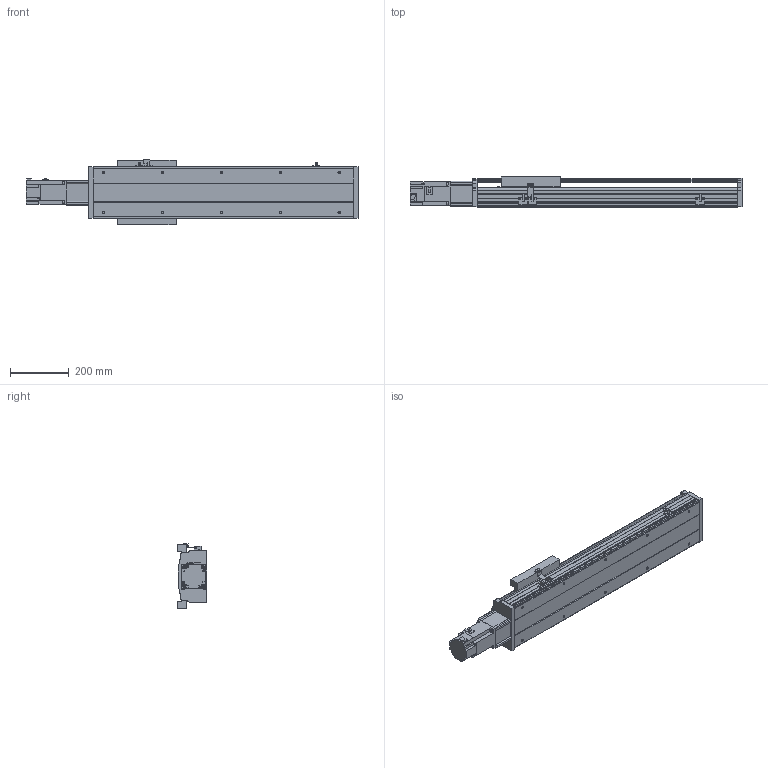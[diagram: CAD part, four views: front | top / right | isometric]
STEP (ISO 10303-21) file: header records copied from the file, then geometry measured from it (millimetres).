
FILE_DESCRIPTION( ( 'STEP AP214' ), '1' );
FILE_NAME( 'x:/temp/worker_27/temp/exporttempdir_6708_407_pI1L7/format_0/PSS200-L10-S550-BC-T75-C1-N(0).stp', '2022-06-06T02:34:05', ( 'License CC BY-ND 4.0' ), ( 'CADENAS' ), ' ', 'PARTsolutions', ' ' );
FILE_SCHEMA( ( 'AUTOMOTIVE_DESIGN { 1 0 10303 214 1 1 1 1 }' ) );
Length unit declared in the file: millimetre
Products named in the file (8): PSS200-L10-S550-BC-T75-C1-N(0); _PSS200-S550-BC-C1-N_body; _PSS200-N_Q; _PSS200-BC-C1-N_sl; _PSS200-N_sensor; _PSS200BC-N_h; _T75-p1; _PSS200-S550-BC-N_S
Assembly tree (9 placements, depth 2):
  PSS200-L10-S550-BC-T75-C1-N(0)
    _PSS200-S550-BC-C1-N_body
    _PSS200-N_Q
    _PSS200-BC-C1-N_sl
    _PSS200-N_sensor  x3
    _PSS200BC-N_h
    _T75-p1
    _PSS200-S550-BC-N_S
Bounding box: 1126.3 x 101.5 x 223.86 mm (x, y, z)
Volume: 6594333.4 mm3; surface area: 1584963.2 mm2
Topology: 9 solids, 9 shells, 573 faces, 1531 edges, 1016 vertices
Faces by surface type: plane 439, cylinder 116, cone 18
Full cylindrical faces by diameter (mm): 4 x2, 4.5 x4, 6 x11, 6.647 x14, 8 x8, 10 x6, 25 x1, 67 x1, 70 x1
Entity records: 20091 total; most frequent: CARTESIAN_POINT 2808, DIRECTION 2621, ORIENTED_EDGE 2618, EDGE_CURVE 1309, LINE 1051, VECTOR 1051, VERTEX_POINT 908, AXIS2_PLACEMENT_3D 785
